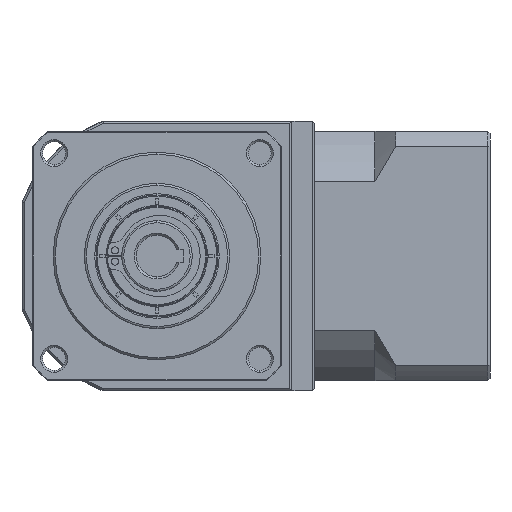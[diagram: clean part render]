
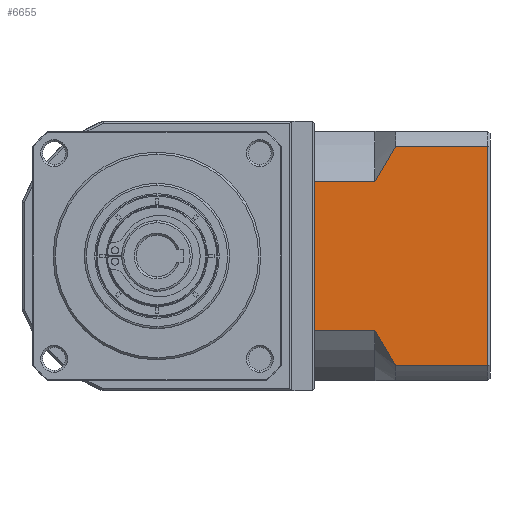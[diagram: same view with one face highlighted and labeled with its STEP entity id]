
A CAD part, left-side view. The second image highlights one B-rep face of the part: STEP entity #6655.
In plain terms, the highlighted planar face has unit normal (-1, 0, 0).
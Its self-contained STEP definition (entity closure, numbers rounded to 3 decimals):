
#2295 = ORIENTED_EDGE ( 'NONE', *, *, #73529, .F. ) ;
#3808 = VECTOR ( 'NONE', #58584, 1000. ) ;
#5867 = DIRECTION ( 'NONE',  ( 0., 1., 0. ) ) ;
#6430 = CARTESIAN_POINT ( 'NONE',  ( -17.014, -66.287, -107.16 ) ) ;
#6655 = ADVANCED_FACE ( 'NONE', ( #98049 ), #128614, .F. ) ;
#7435 = LINE ( 'NONE', #34520, #3808 ) ;
#8368 = CARTESIAN_POINT ( 'NONE',  ( -17.014, -107.987, -151.645 ) ) ;
#9702 = CARTESIAN_POINT ( 'NONE',  ( -17.014, -80.787, -98.73 ) ) ;
#11861 = ORIENTED_EDGE ( 'NONE', *, *, #145043, .T. ) ;
#12989 = CARTESIAN_POINT ( 'NONE',  ( -17.014, -80.787, -151.645 ) ) ;
#13564 = CARTESIAN_POINT ( 'NONE',  ( -17.014, -66.287, -143.215 ) ) ;
#14021 = CARTESIAN_POINT ( 'NONE',  ( -17.014, -66.287, -155.188 ) ) ;
#14616 = VECTOR ( 'NONE', #5867, 1000. ) ;
#14962 = EDGE_LOOP ( 'NONE', ( #2295, #11861, #15021, #15783, #19460, #27951, #31829, #32634 ) ) ;
#15021 = ORIENTED_EDGE ( 'NONE', *, *, #119623, .F. ) ;
#15783 = ORIENTED_EDGE ( 'NONE', *, *, #73990, .T. ) ;
#18582 = VECTOR ( 'NONE', #119568, 1000. ) ;
#19460 = ORIENTED_EDGE ( 'NONE', *, *, #129885, .F. ) ;
#21465 = DIRECTION ( 'NONE',  ( 0., -1., 0. ) ) ;
#26327 = AXIS2_PLACEMENT_3D ( 'NONE', #127319, #127142, #127122 ) ;
#27951 = ORIENTED_EDGE ( 'NONE', *, *, #80694, .T. ) ;
#29440 = LINE ( 'NONE', #9702, #87994 ) ;
#30331 = CARTESIAN_POINT ( 'NONE',  ( -17.014, -107.987, -98.73 ) ) ;
#31118 = CARTESIAN_POINT ( 'NONE',  ( -17.014, -80.787, -143.215 ) ) ;
#31617 = CARTESIAN_POINT ( 'NONE',  ( -17.014, -84.012, -148.902 ) ) ;
#31829 = ORIENTED_EDGE ( 'NONE', *, *, #118987, .F. ) ;
#32075 = CARTESIAN_POINT ( 'NONE',  ( -17.014, -85.787, -98.73 ) ) ;
#32634 = ORIENTED_EDGE ( 'NONE', *, *, #132595, .T. ) ;
#33492 = VERTEX_POINT ( 'NONE', #8368 ) ;
#34520 = CARTESIAN_POINT ( 'NONE',  ( -17.014, -107.987, -155.188 ) ) ;
#43402 = CARTESIAN_POINT ( 'NONE',  ( -17.014, -85.787, -151.645 ) ) ;
#51721 = CARTESIAN_POINT ( 'NONE',  ( -17.014, -80.787, -107.16 ) ) ;
#58584 = DIRECTION ( 'NONE',  ( 0., 0., 1. ) ) ;
#60741 = B_SPLINE_CURVE_WITH_KNOTS ( 'NONE', 3,
 ( #31118, #89952, #101788, #31617, #113583, #43402 ),
 .UNSPECIFIED., .F., .F.,
 ( 4, 2, 4 ),
 ( 0.1, 0.104, 0.109 ),
 .UNSPECIFIED. ) ;
#65678 = CARTESIAN_POINT ( 'NONE',  ( -17.014, -85.787, -151.645 ) ) ;
#66230 = CARTESIAN_POINT ( 'NONE',  ( -17.014, -85.787, -98.73 ) ) ;
#67355 = CARTESIAN_POINT ( 'NONE',  ( -17.014, -82.338, -104.276 ) ) ;
#69774 = VERTEX_POINT ( 'NONE', #65678 ) ;
#70662 = CARTESIAN_POINT ( 'NONE',  ( -17.014, -80.787, -143.215 ) ) ;
#71980 = VERTEX_POINT ( 'NONE', #6430 ) ;
#72087 = VERTEX_POINT ( 'NONE', #66230 ) ;
#73529 = EDGE_CURVE ( 'NONE', #33492, #69774, #134529, .T. ) ;
#73990 = EDGE_CURVE ( 'NONE', #72087, #81202, #136680, .T. ) ;
#75860 = VECTOR ( 'NONE', #83583, 1000. ) ;
#77107 = VERTEX_POINT ( 'NONE', #30331 ) ;
#77390 = VERTEX_POINT ( 'NONE', #70662 ) ;
#78621 = CARTESIAN_POINT ( 'NONE',  ( -17.014, -84.887, -100.09 ) ) ;
#79131 = CARTESIAN_POINT ( 'NONE',  ( -17.014, -80.787, -107.16 ) ) ;
#80694 = EDGE_CURVE ( 'NONE', #71980, #86340, #112088, .T. ) ;
#81202 = VERTEX_POINT ( 'NONE', #51721 ) ;
#83583 = DIRECTION ( 'NONE',  ( 0., 1., 0. ) ) ;
#86340 = VERTEX_POINT ( 'NONE', #13564 ) ;
#87994 = VECTOR ( 'NONE', #21465, 1000. ) ;
#89952 = CARTESIAN_POINT ( 'NONE',  ( -17.014, -81.537, -144.672 ) ) ;
#98049 = FACE_OUTER_BOUND ( 'NONE', #14962, .T. ) ;
#101788 = CARTESIAN_POINT ( 'NONE',  ( -17.014, -82.337, -146.097 ) ) ;
#106161 = VECTOR ( 'NONE', #136980, 1000. ) ;
#109793 = LINE ( 'NONE', #125262, #106161 ) ;
#112088 = LINE ( 'NONE', #14021, #18582 ) ;
#112358 = CARTESIAN_POINT ( 'NONE',  ( -17.014, -80.787, -143.215 ) ) ;
#113583 = CARTESIAN_POINT ( 'NONE',  ( -17.014, -84.885, -150.282 ) ) ;
#118987 = EDGE_CURVE ( 'NONE', #77390, #86340, #135546, .T. ) ;
#119568 = DIRECTION ( 'NONE',  ( 0., 0., -1. ) ) ;
#119623 = EDGE_CURVE ( 'NONE', #72087, #77107, #29440, .T. ) ;
#125262 = CARTESIAN_POINT ( 'NONE',  ( -17.014, -80.787, -107.16 ) ) ;
#127122 = DIRECTION ( 'NONE',  ( 0., 1., 0. ) ) ;
#127142 = DIRECTION ( 'NONE',  ( 1., 0., 0. ) ) ;
#127319 = CARTESIAN_POINT ( 'NONE',  ( -17.014, -108.487, -155.188 ) ) ;
#128614 = PLANE ( 'NONE',  #26327 ) ;
#129885 = EDGE_CURVE ( 'NONE', #71980, #81202, #109793, .T. ) ;
#132595 = EDGE_CURVE ( 'NONE', #77390, #69774, #60741, .T. ) ;
#134529 = LINE ( 'NONE', #12989, #75860 ) ;
#135546 = LINE ( 'NONE', #112358, #14616 ) ;
#136680 = B_SPLINE_CURVE_WITH_KNOTS ( 'NONE', 3,
 ( #32075, #78621, #137550, #67355, #149210, #79131 ),
 .UNSPECIFIED., .F., .F.,
 ( 4, 2, 4 ),
 ( 0.052, 0.057, 0.062 ),
 .UNSPECIFIED. ) ;
#136980 = DIRECTION ( 'NONE',  ( 0., -1., 0. ) ) ;
#137550 = CARTESIAN_POINT ( 'NONE',  ( -17.014, -84.014, -101.469 ) ) ;
#145043 = EDGE_CURVE ( 'NONE', #33492, #77107, #7435, .T. ) ;
#149210 = CARTESIAN_POINT ( 'NONE',  ( -17.014, -81.535, -105.708 ) ) ;
